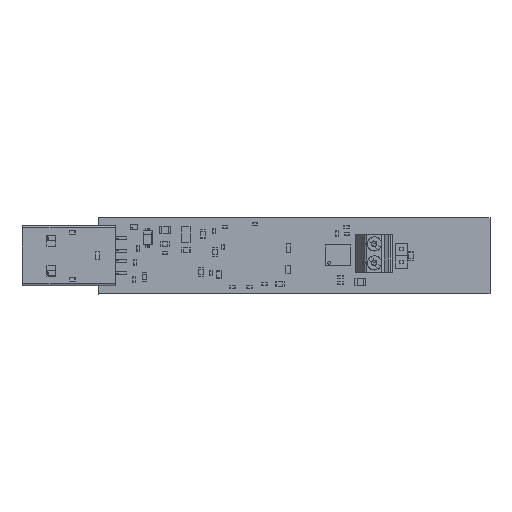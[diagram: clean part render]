
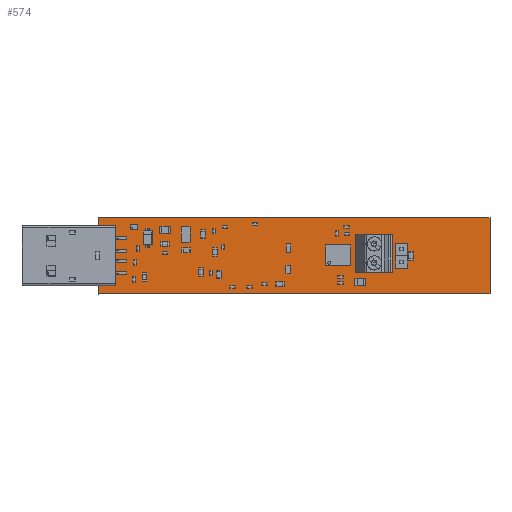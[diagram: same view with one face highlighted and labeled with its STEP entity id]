
A CAD part, top view. The second image highlights one B-rep face of the part: STEP entity #574.
In plain terms, the highlighted planar face has unit normal (0, 0, 1).
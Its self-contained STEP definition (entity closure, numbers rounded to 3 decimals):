
#183 = VERTEX_POINT('',#184);
#184 = CARTESIAN_POINT('',(0.,4.953,1.575));
#191 = PLANE('',#192);
#192 = AXIS2_PLACEMENT_3D('',#193,#194,#195);
#193 = CARTESIAN_POINT('',(0.,4.953,0.));
#194 = DIRECTION('',(-0.707,0.707,0.));
#195 = DIRECTION('',(0.707,0.707,0.));
#203 = PLANE('',#204);
#204 = AXIS2_PLACEMENT_3D('',#205,#206,#207);
#205 = CARTESIAN_POINT('',(0.,20.32,0.));
#206 = DIRECTION('',(1.,0.,0.));
#207 = DIRECTION('',(0.,-1.,0.));
#215 = EDGE_CURVE('',#183,#216,#218,.T.);
#216 = VERTEX_POINT('',#217);
#217 = CARTESIAN_POINT('',(0.127,5.08,1.575));
#218 = SURFACE_CURVE('',#219,(#223,#230),.PCURVE_S1.);
#219 = LINE('',#220,#221);
#220 = CARTESIAN_POINT('',(0.,4.953,1.575));
#221 = VECTOR('',#222,1.);
#222 = DIRECTION('',(0.707,0.707,0.));
#223 = PCURVE('',#191,#224);
#224 = DEFINITIONAL_REPRESENTATION('',(#225),#229);
#225 = LINE('',#226,#227);
#226 = CARTESIAN_POINT('',(0.,-1.575));
#227 = VECTOR('',#228,1.);
#228 = DIRECTION('',(1.,0.));
#229 = ( GEOMETRIC_REPRESENTATION_CONTEXT(2) 
PARAMETRIC_REPRESENTATION_CONTEXT() REPRESENTATION_CONTEXT('2D SPACE',''
  ) );
#230 = PCURVE('',#231,#236);
#231 = PLANE('',#232);
#232 = AXIS2_PLACEMENT_3D('',#233,#234,#235);
#233 = CARTESIAN_POINT('',(0.,4.953,1.575));
#234 = DIRECTION('',(0.,0.,1.));
#235 = DIRECTION('',(1.,0.,0.));
#236 = DEFINITIONAL_REPRESENTATION('',(#237),#241);
#237 = LINE('',#238,#239);
#238 = CARTESIAN_POINT('',(0.,0.));
#239 = VECTOR('',#240,1.);
#240 = DIRECTION('',(0.707,0.707));
#241 = ( GEOMETRIC_REPRESENTATION_CONTEXT(2) 
PARAMETRIC_REPRESENTATION_CONTEXT() REPRESENTATION_CONTEXT('2D SPACE',''
  ) );
#259 = PLANE('',#260);
#260 = AXIS2_PLACEMENT_3D('',#261,#262,#263);
#261 = CARTESIAN_POINT('',(0.127,5.08,0.));
#262 = DIRECTION('',(0.,1.,0.));
#263 = DIRECTION('',(1.,0.,0.));
#301 = EDGE_CURVE('',#216,#302,#304,.T.);
#302 = VERTEX_POINT('',#303);
#303 = CARTESIAN_POINT('',(78.74,5.08,1.575));
#304 = SURFACE_CURVE('',#305,(#309,#316),.PCURVE_S1.);
#305 = LINE('',#306,#307);
#306 = CARTESIAN_POINT('',(0.127,5.08,1.575));
#307 = VECTOR('',#308,1.);
#308 = DIRECTION('',(1.,0.,0.));
#309 = PCURVE('',#259,#310);
#310 = DEFINITIONAL_REPRESENTATION('',(#311),#315);
#311 = LINE('',#312,#313);
#312 = CARTESIAN_POINT('',(0.,-1.575));
#313 = VECTOR('',#314,1.);
#314 = DIRECTION('',(1.,0.));
#315 = ( GEOMETRIC_REPRESENTATION_CONTEXT(2) 
PARAMETRIC_REPRESENTATION_CONTEXT() REPRESENTATION_CONTEXT('2D SPACE',''
  ) );
#316 = PCURVE('',#231,#317);
#317 = DEFINITIONAL_REPRESENTATION('',(#318),#322);
#318 = LINE('',#319,#320);
#319 = CARTESIAN_POINT('',(0.127,0.127));
#320 = VECTOR('',#321,1.);
#321 = DIRECTION('',(1.,0.));
#322 = ( GEOMETRIC_REPRESENTATION_CONTEXT(2) 
PARAMETRIC_REPRESENTATION_CONTEXT() REPRESENTATION_CONTEXT('2D SPACE',''
  ) );
#340 = PLANE('',#341);
#341 = AXIS2_PLACEMENT_3D('',#342,#343,#344);
#342 = CARTESIAN_POINT('',(78.74,5.08,0.));
#343 = DIRECTION('',(-1.,0.,0.));
#344 = DIRECTION('',(0.,1.,0.));
#377 = EDGE_CURVE('',#302,#378,#380,.T.);
#378 = VERTEX_POINT('',#379);
#379 = CARTESIAN_POINT('',(78.74,20.32,1.575));
#380 = SURFACE_CURVE('',#381,(#385,#392),.PCURVE_S1.);
#381 = LINE('',#382,#383);
#382 = CARTESIAN_POINT('',(78.74,5.08,1.575));
#383 = VECTOR('',#384,1.);
#384 = DIRECTION('',(0.,1.,0.));
#385 = PCURVE('',#340,#386);
#386 = DEFINITIONAL_REPRESENTATION('',(#387),#391);
#387 = LINE('',#388,#389);
#388 = CARTESIAN_POINT('',(0.,-1.575));
#389 = VECTOR('',#390,1.);
#390 = DIRECTION('',(1.,0.));
#391 = ( GEOMETRIC_REPRESENTATION_CONTEXT(2) 
PARAMETRIC_REPRESENTATION_CONTEXT() REPRESENTATION_CONTEXT('2D SPACE',''
  ) );
#392 = PCURVE('',#231,#393);
#393 = DEFINITIONAL_REPRESENTATION('',(#394),#398);
#394 = LINE('',#395,#396);
#395 = CARTESIAN_POINT('',(78.74,0.127));
#396 = VECTOR('',#397,1.);
#397 = DIRECTION('',(0.,1.));
#398 = ( GEOMETRIC_REPRESENTATION_CONTEXT(2) 
PARAMETRIC_REPRESENTATION_CONTEXT() REPRESENTATION_CONTEXT('2D SPACE',''
  ) );
#416 = PLANE('',#417);
#417 = AXIS2_PLACEMENT_3D('',#418,#419,#420);
#418 = CARTESIAN_POINT('',(78.74,20.32,0.));
#419 = DIRECTION('',(0.,-1.,0.));
#420 = DIRECTION('',(-1.,0.,0.));
#453 = EDGE_CURVE('',#378,#454,#456,.T.);
#454 = VERTEX_POINT('',#455);
#455 = CARTESIAN_POINT('',(0.,20.32,1.575));
#456 = SURFACE_CURVE('',#457,(#461,#468),.PCURVE_S1.);
#457 = LINE('',#458,#459);
#458 = CARTESIAN_POINT('',(78.74,20.32,1.575));
#459 = VECTOR('',#460,1.);
#460 = DIRECTION('',(-1.,0.,0.));
#461 = PCURVE('',#416,#462);
#462 = DEFINITIONAL_REPRESENTATION('',(#463),#467);
#463 = LINE('',#464,#465);
#464 = CARTESIAN_POINT('',(0.,-1.575));
#465 = VECTOR('',#466,1.);
#466 = DIRECTION('',(1.,0.));
#467 = ( GEOMETRIC_REPRESENTATION_CONTEXT(2) 
PARAMETRIC_REPRESENTATION_CONTEXT() REPRESENTATION_CONTEXT('2D SPACE',''
  ) );
#468 = PCURVE('',#231,#469);
#469 = DEFINITIONAL_REPRESENTATION('',(#470),#474);
#470 = LINE('',#471,#472);
#471 = CARTESIAN_POINT('',(78.74,15.367));
#472 = VECTOR('',#473,1.);
#473 = DIRECTION('',(-1.,0.));
#474 = ( GEOMETRIC_REPRESENTATION_CONTEXT(2) 
PARAMETRIC_REPRESENTATION_CONTEXT() REPRESENTATION_CONTEXT('2D SPACE',''
  ) );
#524 = EDGE_CURVE('',#454,#183,#525,.T.);
#525 = SURFACE_CURVE('',#526,(#530,#537),.PCURVE_S1.);
#526 = LINE('',#527,#528);
#527 = CARTESIAN_POINT('',(0.,20.32,1.575));
#528 = VECTOR('',#529,1.);
#529 = DIRECTION('',(0.,-1.,0.));
#530 = PCURVE('',#203,#531);
#531 = DEFINITIONAL_REPRESENTATION('',(#532),#536);
#532 = LINE('',#533,#534);
#533 = CARTESIAN_POINT('',(0.,-1.575));
#534 = VECTOR('',#535,1.);
#535 = DIRECTION('',(1.,0.));
#536 = ( GEOMETRIC_REPRESENTATION_CONTEXT(2) 
PARAMETRIC_REPRESENTATION_CONTEXT() REPRESENTATION_CONTEXT('2D SPACE',''
  ) );
#537 = PCURVE('',#231,#538);
#538 = DEFINITIONAL_REPRESENTATION('',(#539),#543);
#539 = LINE('',#540,#541);
#540 = CARTESIAN_POINT('',(0.,15.367));
#541 = VECTOR('',#542,1.);
#542 = DIRECTION('',(0.,-1.));
#543 = ( GEOMETRIC_REPRESENTATION_CONTEXT(2) 
PARAMETRIC_REPRESENTATION_CONTEXT() REPRESENTATION_CONTEXT('2D SPACE',''
  ) );
#574 = ADVANCED_FACE('',(#575),#231,.T.);
#575 = FACE_BOUND('',#576,.T.);
#576 = EDGE_LOOP('',(#577,#578,#579,#580,#581));
#577 = ORIENTED_EDGE('',*,*,#215,.T.);
#578 = ORIENTED_EDGE('',*,*,#301,.T.);
#579 = ORIENTED_EDGE('',*,*,#377,.T.);
#580 = ORIENTED_EDGE('',*,*,#453,.T.);
#581 = ORIENTED_EDGE('',*,*,#524,.T.);
